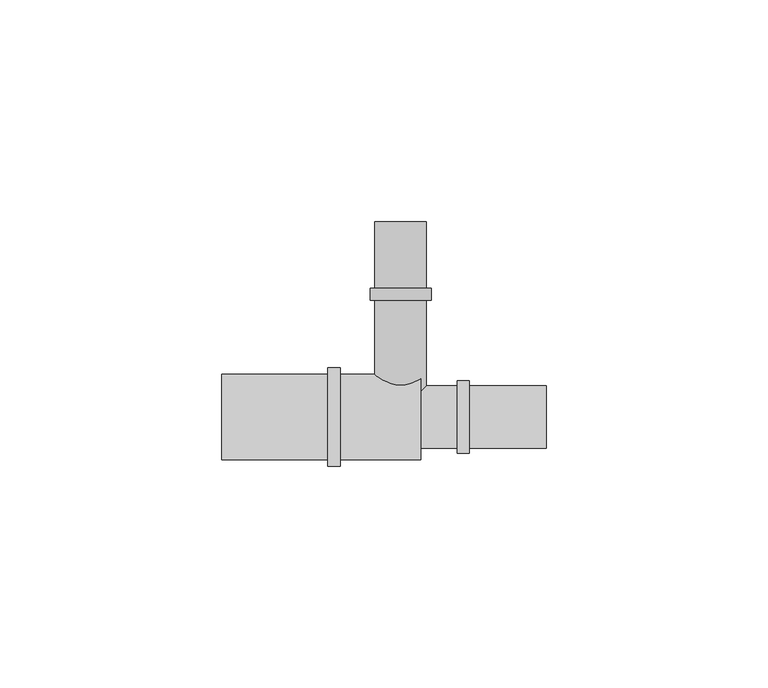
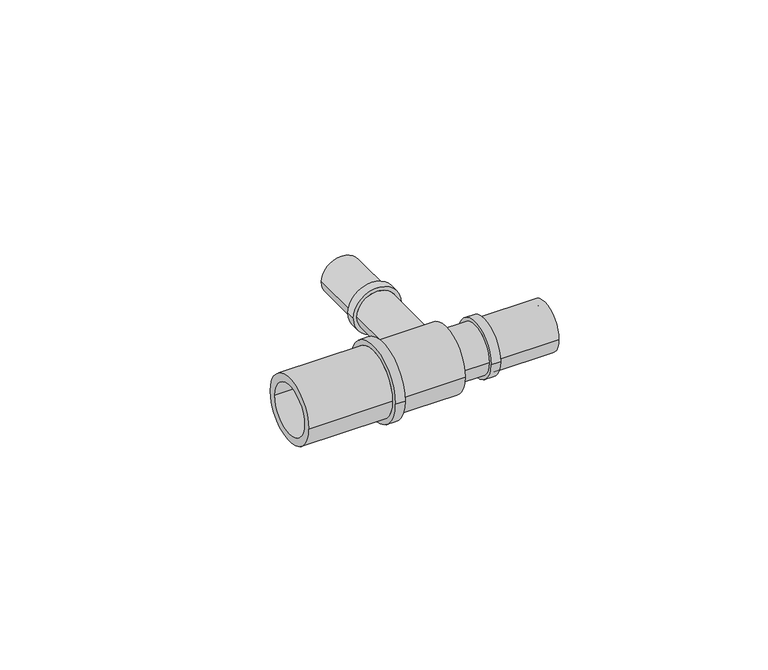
"""IFC4 building model written with IfcOpenShell, lengths in millimetres: pipe fitting geometry, FASTLOC_T-piece_LX : FSL T-Piece LX PL."""

from ifc_helpers import new_model, si_unit, frame, origin, place, context, project, spatial, polyline, circle_curve, source, transform, mapped, element, save
from ifc_brep_helpers import plane_surface, cylinder_surface, revolved_surface, advanced_brep


def pipe_fitting_0fc03181(model_context):
    return source(origin(), model_context, "Body", "AdvancedBrep", [
        advanced_brep(
        [(3.95, 44.1, 0.0), (-3.95, 44.1, 0.0), (-3.95, 0.0, 0.0), (3.95, 0.0, 0.0), (5.8, 0.0, 0.0), (-5.8, 0.0, 0.0), (-5.8, 26.39, 0.0), (5.8, 26.39, 0.0), (6.9, 26.39, 0.0), (-6.9, 26.39, 0.0), (-6.9, 29.1, 0.0), (6.9, 29.1, 0.0), (5.8, 29.1, 0.0), (-5.8, 29.1, 0.0), (-5.8, 44.1, 0.0), (5.8, 44.1, 0.0)],
        [
            (0, 1, circle_curve(frame((0.0, 44.1, 0.0), z_axis=(0.0, 1.0, 0.0), x_axis=(-1.0, 0.0, 0.0)), 3.95)),
            (1, 2),
            (2, 3, circle_curve(frame((0.0, 0.0, 0.0), z_axis=(0.0, -1.0, 0.0), x_axis=(-1.0, 0.0, 0.0)), 3.95)),
            (3, 0),
            (4, 5, circle_curve(frame((0.0, 0.0, 0.0), z_axis=(0.0, 1.0, 0.0), x_axis=(-1.0, 0.0, 0.0)), 5.8)),
            (5, 6),
            (6, 7, circle_curve(frame((0.0, 26.39, 0.0), z_axis=(0.0, -1.0, 0.0), x_axis=(-1.0, 0.0, 0.0)), 5.8)),
            (7, 4),
            (8, 9, circle_curve(frame((0.0, 26.39, 0.0), z_axis=(0.0, 1.0, 0.0), x_axis=(-1.0, 0.0, 0.0)), 6.9)),
            (9, 10),
            (10, 11, circle_curve(frame((0.0, 29.1, 0.0), z_axis=(0.0, -1.0, 0.0), x_axis=(-1.0, 0.0, 0.0)), 6.9)),
            (11, 8),
            (12, 13, circle_curve(frame((0.0, 29.1, 0.0), z_axis=(0.0, 1.0, 0.0), x_axis=(-1.0, 0.0, 0.0)), 5.8)),
            (13, 14),
            (14, 15, circle_curve(frame((0.0, 44.1, 0.0), z_axis=(0.0, -1.0, 0.0), x_axis=(-1.0, 0.0, 0.0)), 5.8)),
            (15, 12),
            (1, 0, circle_curve(frame((0.0, 44.1, 0.0), z_axis=(0.0, 1.0, 0.0), x_axis=(1.0, 0.0, 0.0)), 3.95)),
            (3, 2, circle_curve(frame((0.0, 0.0, 0.0), z_axis=(0.0, -1.0, 0.0), x_axis=(1.0, 0.0, 0.0)), 3.95)),
            (4, 5, circle_curve(frame((0.0, 0.0, 0.0), z_axis=(0.0, -1.0, 0.0), x_axis=(1.0, 0.0, 0.0)), 5.8)),
            (7, 6, circle_curve(frame((0.0, 26.39, 0.0), z_axis=(0.0, -1.0, 0.0), x_axis=(1.0, 0.0, 0.0)), 5.8)),
            (8, 9, circle_curve(frame((0.0, 26.39, 0.0), z_axis=(0.0, -1.0, 0.0), x_axis=(1.0, 0.0, 0.0)), 6.9)),
            (11, 10, circle_curve(frame((0.0, 29.1, 0.0), z_axis=(0.0, -1.0, 0.0), x_axis=(1.0, 0.0, 0.0)), 6.9)),
            (12, 13, circle_curve(frame((0.0, 29.1, 0.0), z_axis=(0.0, -1.0, 0.0), x_axis=(1.0, 0.0, 0.0)), 5.8)),
            (15, 14, circle_curve(frame((0.0, 44.1, 0.0), z_axis=(0.0, -1.0, 0.0), x_axis=(1.0, 0.0, 0.0)), 5.8)),
        ],
        [
            revolved_surface(polyline([(-3.95, 0.0, 0.0), (-3.95, 44.1, 0.0)]), (0.0, 0.0, 0.0), (0.0, -1.0, 0.0)),
            cylinder_surface(frame((0.0, 0.0, 0.0), z_axis=(0.0, -1.0, 0.0), x_axis=(-1.0, 0.0, 0.0)), 5.8),
            cylinder_surface(frame((0.0, 0.0, 0.0), z_axis=(0.0, -1.0, 0.0), x_axis=(-1.0, 0.0, 0.0)), 6.9),
            revolved_surface(polyline([(3.95, 0.0, 0.0), (3.95, 44.1, 0.0)]), (0.0, 0.0, 0.0), (0.0, -1.0, 0.0)),
            plane_surface(frame((0.0, 0.0, 0.0), z_axis=(0.0, -1.0, 0.0), x_axis=(1.0, 0.0, 0.0))),
            cylinder_surface(frame((0.0, 0.0, 0.0), z_axis=(0.0, -1.0, 0.0), x_axis=(1.0, 0.0, 0.0)), 5.8),
            plane_surface(frame((0.0, 26.39, 0.0), z_axis=(0.0, -1.0, 0.0), x_axis=(1.0, 0.0, 0.0))),
            cylinder_surface(frame((0.0, 0.0, 0.0), z_axis=(0.0, -1.0, 0.0), x_axis=(1.0, 0.0, 0.0)), 6.9),
            plane_surface(frame((0.0, 29.1, 0.0), z_axis=(0.0, 1.0, 0.0), x_axis=(1.0, 0.0, 0.0))),
            plane_surface(frame((0.0, 44.1, 0.0), z_axis=(0.0, 1.0, 0.0), x_axis=(1.0, 0.0, 0.0))),
        ],
        [
            (0, [[1, 2, 3, 4]]),
            (1, [[5, 6, 7, 8]]),
            (2, [[9, 10, 11, 12]]),
            (1, [[13, 14, 15, 16]]),
            (3, [[17, -4, 18, -2]]),
            (4, [[19, -5], [-18, -3]]),
            (5, [[-19, -8, 20, -6]]),
            (6, [[21, -9], [-20, -7]]),
            (7, [[-21, -12, 22, -10]]),
            (8, [[-22, -11], [23, -13]]),
            (5, [[-23, -16, 24, -14]]),
            (9, [[-24, -15], [-17, -1]]),
        ],
    ),
        advanced_brep(
        [(12.83, 7.1, 0.0), (12.83, -7.1, 0.0), (4.5, -7.1, 0.0), (4.5, 7.1, 0.0), (15.5, 8.15, 0.0), (15.5, -8.15, 0.0), (12.83, -8.15, 0.0), (12.83, 8.15, 0.0), (32.9, 7.1, 0.0), (32.9, -7.1, 0.0), (15.5, -7.1, 0.0), (15.5, 7.1, 0.0), (2.5, 5.1, 0.0), (2.5, -5.1, 0.0), (32.9, -5.1, 0.0), (32.9, 5.1, 0.0), (-40.4, 7.35, 0.0), (-40.4, -7.35, 0.0), (2.5, -7.35, 0.0), (2.5, 7.35, 0.0), (-16.4, 9.6, 0.0), (-16.4, -9.6, 0.0), (-40.4, -9.6, 0.0), (-40.4, 9.6, 0.0), (-13.6, 11.1, 0.0), (-13.6, -11.1, 0.0), (-16.4, -11.1, 0.0), (-16.4, 11.1, 0.0), (4.5, 9.6, 0.0), (4.5, -9.6, 0.0), (-13.6, -9.6, 0.0), (-13.6, 9.6, 0.0)],
        [
            (0, 1, circle_curve(frame((12.83, 0.0, 0.0), z_axis=(-1.0, 0.0, 0.0), x_axis=(0.0, -1.0, 0.0)), 7.1)),
            (1, 2),
            (2, 3, circle_curve(frame((4.5, 0.0, 0.0), z_axis=(1.0, 0.0, 0.0), x_axis=(0.0, -1.0, 0.0)), 7.1)),
            (3, 0),
            (4, 5, circle_curve(frame((15.5, 0.0, 0.0), z_axis=(-1.0, 0.0, 0.0), x_axis=(0.0, -1.0, 0.0)), 8.15)),
            (5, 6),
            (6, 7, circle_curve(frame((12.83, 0.0, 0.0), z_axis=(1.0, 0.0, 0.0), x_axis=(0.0, -1.0, 0.0)), 8.15)),
            (7, 4),
            (8, 9, circle_curve(frame((32.9, 0.0, 0.0), z_axis=(-1.0, 0.0, 0.0), x_axis=(0.0, -1.0, 0.0)), 7.1)),
            (9, 10),
            (10, 11, circle_curve(frame((15.5, 0.0, 0.0), z_axis=(1.0, 0.0, 0.0), x_axis=(0.0, -1.0, 0.0)), 7.1)),
            (11, 8),
            (12, 13, circle_curve(frame((2.5, 0.0, 0.0), z_axis=(-1.0, 0.0, 0.0), x_axis=(0.0, -1.0, 0.0)), 5.1)),
            (13, 14),
            (14, 15, circle_curve(frame((32.9, 0.0, 0.0), z_axis=(1.0, 0.0, 0.0), x_axis=(0.0, -1.0, 0.0)), 5.1)),
            (15, 12),
            (16, 17, circle_curve(frame((-40.4, 0.0, 0.0), z_axis=(-1.0, 0.0, 0.0), x_axis=(0.0, -1.0, 0.0)), 7.35)),
            (17, 18),
            (18, 19, circle_curve(frame((2.5, 0.0, 0.0), z_axis=(1.0, 0.0, 0.0), x_axis=(0.0, -1.0, 0.0)), 7.35)),
            (19, 16),
            (20, 21, circle_curve(frame((-16.4, 0.0, 0.0), z_axis=(-1.0, 0.0, 0.0), x_axis=(0.0, -1.0, 0.0)), 9.6)),
            (21, 22),
            (22, 23, circle_curve(frame((-40.4, 0.0, 0.0), z_axis=(1.0, 0.0, 0.0), x_axis=(0.0, -1.0, 0.0)), 9.6)),
            (23, 20),
            (24, 25, circle_curve(frame((-13.6, 0.0, 0.0), z_axis=(-1.0, 0.0, 0.0), x_axis=(0.0, -1.0, 0.0)), 11.1)),
            (25, 26),
            (26, 27, circle_curve(frame((-16.4, 0.0, 0.0), z_axis=(1.0, 0.0, 0.0), x_axis=(0.0, -1.0, 0.0)), 11.1)),
            (27, 24),
            (28, 29, circle_curve(frame((4.5, 0.0, 0.0), z_axis=(-1.0, 0.0, 0.0), x_axis=(0.0, -1.0, 0.0)), 9.6)),
            (29, 30),
            (30, 31, circle_curve(frame((-13.6, 0.0, 0.0), z_axis=(1.0, 0.0, 0.0), x_axis=(0.0, -1.0, 0.0)), 9.6)),
            (31, 28),
            (28, 29, circle_curve(frame((4.5, 0.0, 0.0), z_axis=(1.0, 0.0, 0.0), x_axis=(0.0, 1.0, 0.0)), 9.6)),
            (2, 3, circle_curve(frame((4.5, 0.0, 0.0), z_axis=(-1.0, 0.0, 0.0), x_axis=(0.0, 1.0, 0.0)), 7.1)),
            (1, 0, circle_curve(frame((12.83, 0.0, 0.0), z_axis=(-1.0, 0.0, 0.0), x_axis=(0.0, 1.0, 0.0)), 7.1)),
            (6, 7, circle_curve(frame((12.83, 0.0, 0.0), z_axis=(-1.0, 0.0, 0.0), x_axis=(0.0, 1.0, 0.0)), 8.15)),
            (5, 4, circle_curve(frame((15.5, 0.0, 0.0), z_axis=(-1.0, 0.0, 0.0), x_axis=(0.0, 1.0, 0.0)), 8.15)),
            (10, 11, circle_curve(frame((15.5, 0.0, 0.0), z_axis=(-1.0, 0.0, 0.0), x_axis=(0.0, 1.0, 0.0)), 7.1)),
            (9, 8, circle_curve(frame((32.9, 0.0, 0.0), z_axis=(-1.0, 0.0, 0.0), x_axis=(0.0, 1.0, 0.0)), 7.1)),
            (14, 15, circle_curve(frame((32.9, 0.0, 0.0), z_axis=(-1.0, 0.0, 0.0), x_axis=(0.0, 1.0, 0.0)), 5.1)),
            (13, 12, circle_curve(frame((2.5, 0.0, 0.0), z_axis=(-1.0, 0.0, 0.0), x_axis=(0.0, 1.0, 0.0)), 5.1)),
            (18, 19, circle_curve(frame((2.5, 0.0, 0.0), z_axis=(-1.0, 0.0, 0.0), x_axis=(0.0, 1.0, 0.0)), 7.35)),
            (17, 16, circle_curve(frame((-40.4, 0.0, 0.0), z_axis=(-1.0, 0.0, 0.0), x_axis=(0.0, 1.0, 0.0)), 7.35)),
            (22, 23, circle_curve(frame((-40.4, 0.0, 0.0), z_axis=(-1.0, 0.0, 0.0), x_axis=(0.0, 1.0, 0.0)), 9.6)),
            (21, 20, circle_curve(frame((-16.4, 0.0, 0.0), z_axis=(-1.0, 0.0, 0.0), x_axis=(0.0, 1.0, 0.0)), 9.6)),
            (26, 27, circle_curve(frame((-16.4, 0.0, 0.0), z_axis=(-1.0, 0.0, 0.0), x_axis=(0.0, 1.0, 0.0)), 11.1)),
            (25, 24, circle_curve(frame((-13.6, 0.0, 0.0), z_axis=(-1.0, 0.0, 0.0), x_axis=(0.0, 1.0, 0.0)), 11.1)),
            (30, 31, circle_curve(frame((-13.6, 0.0, 0.0), z_axis=(-1.0, 0.0, 0.0), x_axis=(0.0, 1.0, 0.0)), 9.6)),
        ],
        [
            cylinder_surface(frame((0.0, 0.0, 0.0), z_axis=(1.0, 0.0, 0.0), x_axis=(0.0, -1.0, 0.0)), 7.1),
            cylinder_surface(frame((0.0, 0.0, 0.0), z_axis=(1.0, 0.0, 0.0), x_axis=(0.0, -1.0, 0.0)), 8.15),
            revolved_surface(polyline([(32.9, -5.1, 0.0), (2.5, -5.1, 0.0)]), (0.0, 0.0, 0.0), (1.0, 0.0, 0.0)),
            revolved_surface(polyline([(2.5, -7.35, 0.0), (-40.4, -7.35, 0.0)]), (0.0, 0.0, 0.0), (1.0, 0.0, 0.0)),
            cylinder_surface(frame((0.0, 0.0, 0.0), z_axis=(1.0, 0.0, 0.0), x_axis=(0.0, -1.0, 0.0)), 9.6),
            cylinder_surface(frame((0.0, 0.0, 0.0), z_axis=(1.0, 0.0, 0.0), x_axis=(0.0, -1.0, 0.0)), 11.1),
            plane_surface(frame((4.5, 0.0, 0.0), z_axis=(1.0, 0.0, 0.0), x_axis=(0.0, 1.0, 0.0))),
            cylinder_surface(frame((0.0, 0.0, 0.0), z_axis=(1.0, 0.0, 0.0), x_axis=(0.0, 1.0, 0.0)), 7.1),
            plane_surface(frame((12.83, 0.0, 0.0), z_axis=(-1.0, 0.0, 0.0), x_axis=(0.0, 1.0, 0.0))),
            cylinder_surface(frame((0.0, 0.0, 0.0), z_axis=(1.0, 0.0, 0.0), x_axis=(0.0, 1.0, 0.0)), 8.15),
            plane_surface(frame((15.5, 0.0, 0.0), z_axis=(1.0, 0.0, 0.0), x_axis=(0.0, 1.0, 0.0))),
            plane_surface(frame((32.9, 0.0, 0.0), z_axis=(1.0, 0.0, 0.0), x_axis=(0.0, 1.0, 0.0))),
            revolved_surface(polyline([(32.9, 5.1, 0.0), (2.5, 5.1, 0.0)]), (0.0, 0.0, 0.0), (1.0, 0.0, 0.0)),
            plane_surface(frame((2.5, 0.0, 0.0), z_axis=(-1.0, 0.0, 0.0), x_axis=(0.0, 1.0, 0.0))),
            revolved_surface(polyline([(2.5, 7.35, 0.0), (-40.4, 7.35, 0.0)]), (0.0, 0.0, 0.0), (1.0, 0.0, 0.0)),
            plane_surface(frame((-40.4, 0.0, 0.0), z_axis=(-1.0, 0.0, 0.0), x_axis=(0.0, 1.0, 0.0))),
            cylinder_surface(frame((0.0, 0.0, 0.0), z_axis=(1.0, 0.0, 0.0), x_axis=(0.0, 1.0, 0.0)), 9.6),
            plane_surface(frame((-16.4, 0.0, 0.0), z_axis=(-1.0, 0.0, 0.0), x_axis=(0.0, 1.0, 0.0))),
            cylinder_surface(frame((0.0, 0.0, 0.0), z_axis=(1.0, 0.0, 0.0), x_axis=(0.0, 1.0, 0.0)), 11.1),
            plane_surface(frame((-13.6, 0.0, 0.0), z_axis=(1.0, 0.0, 0.0), x_axis=(0.0, 1.0, 0.0))),
        ],
        [
            (0, [[1, 2, 3, 4]]),
            (1, [[5, 6, 7, 8]]),
            (0, [[9, 10, 11, 12]]),
            (2, [[13, 14, 15, 16]]),
            (3, [[17, 18, 19, 20]]),
            (4, [[21, 22, 23, 24]]),
            (5, [[25, 26, 27, 28]]),
            (4, [[29, 30, 31, 32]]),
            (6, [[33, -29], [34, -3]]),
            (7, [[35, -4, -34, -2]]),
            (8, [[36, -7], [-35, -1]]),
            (9, [[37, -8, -36, -6]]),
            (10, [[-37, -5], [38, -11]]),
            (7, [[39, -12, -38, -10]]),
            (11, [[-39, -9], [40, -15]]),
            (12, [[41, -16, -40, -14]]),
            (13, [[42, -19], [-41, -13]]),
            (14, [[43, -20, -42, -18]]),
            (15, [[44, -23], [-43, -17]]),
            (16, [[45, -24, -44, -22]]),
            (17, [[46, -27], [-45, -21]]),
            (18, [[47, -28, -46, -26]]),
            (19, [[-47, -25], [48, -31]]),
            (16, [[-33, -32, -48, -30]]),
        ],
    ),
    ])


if __name__ == "__main__":
    model = new_model("IFC4")
    model_context = context("Model", 3, world=origin())
    ifc_project = project(units=[si_unit("LENGTHUNIT", "METRE", prefix="MILLI")], contexts=[model_context])
    site = spatial("IfcSite", under=ifc_project)
    building = spatial("IfcBuilding", under=site)
    placement = place(None, origin())
    pipe_fitting_shape = pipe_fitting_0fc03181(model_context)
    element("IfcPipeFitting", 1, ObjectType="FASTLOC_T-piece_LX : FSL T-Piece LX PL", at=placement, inside=building, context=model_context, shape_type="MappedRepresentation", body=[
        mapped(pipe_fitting_shape, transform((0.0, 0.0, 0.0), x_axis=(1.0, 0.0, 0.0), y_axis=(0.0, 1.0, 0.0), z_axis=(0.0, 0.0, 1.0))),
    ])
    save(model, "model.ifc")
